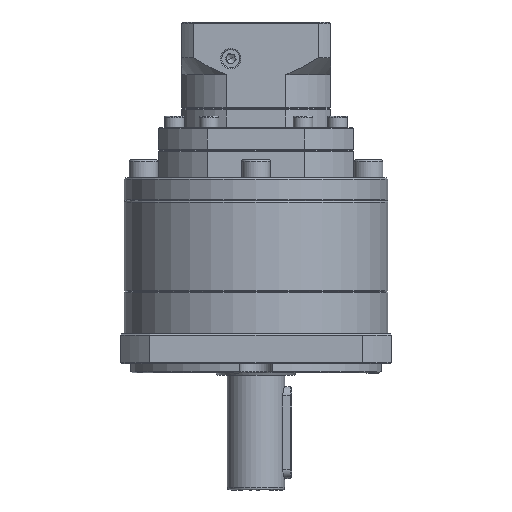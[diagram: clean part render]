
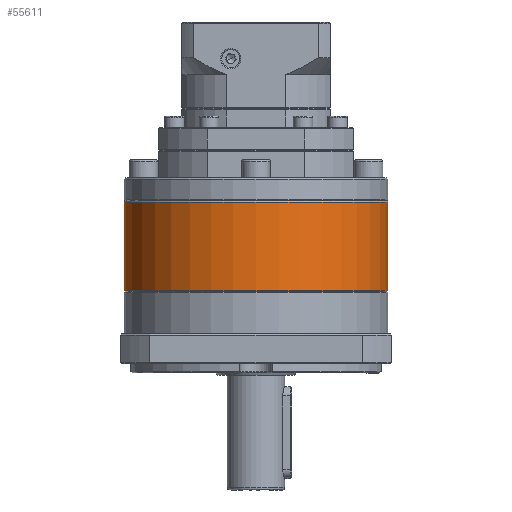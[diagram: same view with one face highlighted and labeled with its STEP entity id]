
A CAD part, front view. The second image highlights one B-rep face of the part: STEP entity #55611.
In plain terms, the highlighted cylindrical face has radius 57.5 mm (diameter 115 mm), a partial arc.
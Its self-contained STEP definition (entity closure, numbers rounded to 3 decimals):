
#6551 = EDGE_CURVE ( 'NONE', #59312, #47369, #68876, .T. ) ;
#8442 = CIRCLE ( 'NONE', #67131, 57.5 ) ;
#9308 = DIRECTION ( 'NONE',  ( 0., 0., -1. ) ) ;
#10346 = AXIS2_PLACEMENT_3D ( 'NONE', #39044, #90800, #71489 ) ;
#20502 = EDGE_CURVE ( 'NONE', #120269, #63585, #8442, .T. ) ;
#26491 = CARTESIAN_POINT ( 'NONE',  ( 139.129, 125.006, -69.306 ) ) ;
#29029 = ORIENTED_EDGE ( 'NONE', *, *, #75092, .T. ) ;
#31360 = DIRECTION ( 'NONE',  ( 0., 0., -1. ) ) ;
#39044 = CARTESIAN_POINT ( 'NONE',  ( 81.629, 125.006, -108.018 ) ) ;
#42249 = VECTOR ( 'NONE', #9308, 1000. ) ;
#47369 = VERTEX_POINT ( 'NONE', #98243 ) ;
#50773 = EDGE_LOOP ( 'NONE', ( #59039, #77597, #29029, #104154 ) ) ;
#55611 = ADVANCED_FACE ( 'NONE', ( #56477 ), #61175, .T. ) ;
#56477 = FACE_OUTER_BOUND ( 'NONE', #50773, .T. ) ;
#57627 = CARTESIAN_POINT ( 'NONE',  ( 139.129, 125.006, -68.806 ) ) ;
#59039 = ORIENTED_EDGE ( 'NONE', *, *, #130925, .F. ) ;
#59312 = VERTEX_POINT ( 'NONE', #78976 ) ;
#60955 = CARTESIAN_POINT ( 'NONE',  ( 81.629, 125.006, -69.306 ) ) ;
#61175 = CYLINDRICAL_SURFACE ( 'NONE', #128776, 57.5 ) ;
#63585 = VERTEX_POINT ( 'NONE', #81890 ) ;
#65612 = DIRECTION ( 'NONE',  ( -1., 0., 0. ) ) ;
#67131 = AXIS2_PLACEMENT_3D ( 'NONE', #60955, #71495, #103195 ) ;
#68163 = DIRECTION ( 'NONE',  ( 0., 0., -1. ) ) ;
#68876 = CIRCLE ( 'NONE', #10346, 57.5 ) ;
#70842 = VECTOR ( 'NONE', #68163, 1000. ) ;
#71489 = DIRECTION ( 'NONE',  ( -1., 0., 0. ) ) ;
#71495 = DIRECTION ( 'NONE',  ( 0., 0., -1. ) ) ;
#72433 = CARTESIAN_POINT ( 'NONE',  ( 24.129, 125.006, -68.806 ) ) ;
#75061 = LINE ( 'NONE', #72433, #42249 ) ;
#75092 = EDGE_CURVE ( 'NONE', #63585, #59312, #75061, .T. ) ;
#77597 = ORIENTED_EDGE ( 'NONE', *, *, #20502, .T. ) ;
#78976 = CARTESIAN_POINT ( 'NONE',  ( 24.129, 125.006, -108.018 ) ) ;
#81890 = CARTESIAN_POINT ( 'NONE',  ( 24.129, 125.006, -69.306 ) ) ;
#83086 = CARTESIAN_POINT ( 'NONE',  ( 81.629, 125.006, -68.806 ) ) ;
#90800 = DIRECTION ( 'NONE',  ( 0., 0., 1. ) ) ;
#98243 = CARTESIAN_POINT ( 'NONE',  ( 139.129, 125.006, -108.018 ) ) ;
#103195 = DIRECTION ( 'NONE',  ( -1., 0., 0. ) ) ;
#104154 = ORIENTED_EDGE ( 'NONE', *, *, #6551, .T. ) ;
#111958 = LINE ( 'NONE', #57627, #70842 ) ;
#120269 = VERTEX_POINT ( 'NONE', #26491 ) ;
#128776 = AXIS2_PLACEMENT_3D ( 'NONE', #83086, #31360, #65612 ) ;
#130925 = EDGE_CURVE ( 'NONE', #120269, #47369, #111958, .T. ) ;
